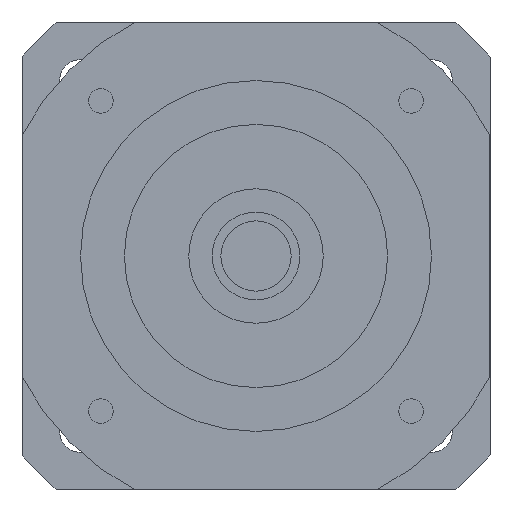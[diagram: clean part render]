
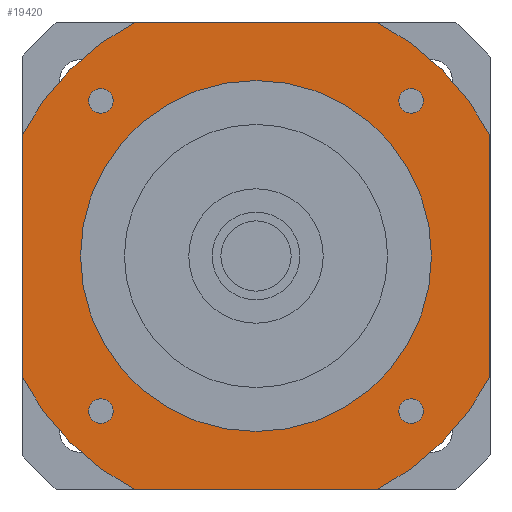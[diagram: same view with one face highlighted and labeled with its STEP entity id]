
A CAD part, left-side view. The second image highlights one B-rep face of the part: STEP entity #19420.
In plain terms, the highlighted planar face has unit normal (-1, 0, 0) as drawn and (0, 0, -1) by its records, which use the part's own axes.
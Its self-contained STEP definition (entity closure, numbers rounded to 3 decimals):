
#14250=CARTESIAN_POINT('',(-40.,-20.616,-42.));
#14260=VERTEX_POINT('',#14250);
#14440=CARTESIAN_POINT('',(-20.616,-40.,-42.));
#14450=VERTEX_POINT('',#14440);
#14480=CARTESIAN_POINT('',(0.,0.,
-42.));
#14490=DIRECTION('',(0.,0.,1.));
#14500=DIRECTION('',(-1.,0.,0.));
#14510=AXIS2_PLACEMENT_3D('',#14480,#14490,#14500);
#14520=CIRCLE('',#14510,45.);
#14530=EDGE_CURVE('',#14260,#14450,#14520,.T.);
#17860=CARTESIAN_POINT('',(40.,40.,-42.));
#17870=DIRECTION('',(0.,0.,1.));
#17880=DIRECTION('',(-1.,0.,0.));
#17890=AXIS2_PLACEMENT_3D('',#17860,#17870,#17880);
#17900=PLANE('',#17890);
#17910=CARTESIAN_POINT('',(-26.517,26.517,-42.));
#17920=DIRECTION('',(0.,0.,-1.));
#17930=DIRECTION('',(0.,-1.,0.));
#17940=AXIS2_PLACEMENT_3D('',#17910,#17920,#17930);
#17950=CIRCLE('',#17940,2.1);
#17960=CARTESIAN_POINT('',(-26.517,24.417,-42.));
#17970=VERTEX_POINT('',#17960);
#17980=CARTESIAN_POINT('',(-28.617,26.517,-42.));
#17990=VERTEX_POINT('',#17980);
#18000=EDGE_CURVE('',#17970,#17990,#17950,.T.);
#18010=ORIENTED_EDGE('',*,*,#18000,.F.);
#18020=CARTESIAN_POINT('',(-24.417,26.517,-42.));
#18030=VERTEX_POINT('',#18020);
#18040=EDGE_CURVE('',#17990,#18030,#17950,.T.);
#18050=ORIENTED_EDGE('',*,*,#18040,.F.);
#18060=EDGE_CURVE('',#18030,#17970,#17950,.T.);
#18070=ORIENTED_EDGE('',*,*,#18060,.F.);
#18080=EDGE_LOOP('',(#18070,#18050,#18010));
#18090=FACE_BOUND('',#18080,.T.);
#18100=CARTESIAN_POINT('',(26.517,26.517,-42.));
#18110=DIRECTION('',(0.,0.,-1.));
#18120=DIRECTION('',(0.,-1.,0.));
#18130=AXIS2_PLACEMENT_3D('',#18100,#18110,#18120);
#18140=CIRCLE('',#18130,2.1);
#18150=CARTESIAN_POINT('',(26.517,24.417,-42.));
#18160=VERTEX_POINT('',#18150);
#18170=CARTESIAN_POINT('',(24.417,26.517,-42.));
#18180=VERTEX_POINT('',#18170);
#18190=EDGE_CURVE('',#18160,#18180,#18140,.T.);
#18200=ORIENTED_EDGE('',*,*,#18190,.F.);
#18210=CARTESIAN_POINT('',(28.617,26.517,-42.));
#18220=VERTEX_POINT('',#18210);
#18230=EDGE_CURVE('',#18180,#18220,#18140,.T.);
#18240=ORIENTED_EDGE('',*,*,#18230,.F.);
#18250=EDGE_CURVE('',#18220,#18160,#18140,.T.);
#18260=ORIENTED_EDGE('',*,*,#18250,.F.);
#18270=EDGE_LOOP('',(#18260,#18240,#18200));
#18280=FACE_BOUND('',#18270,.T.);
#18290=CARTESIAN_POINT('',(26.517,-26.517,-42.));
#18300=DIRECTION('',(0.,0.,-1.));
#18310=DIRECTION('',(0.,-1.,0.));
#18320=AXIS2_PLACEMENT_3D('',#18290,#18300,#18310);
#18330=CIRCLE('',#18320,2.1);
#18340=CARTESIAN_POINT('',(26.517,-28.617,-42.));
#18350=VERTEX_POINT('',#18340);
#18360=CARTESIAN_POINT('',(24.417,-26.517,-42.));
#18370=VERTEX_POINT('',#18360);
#18380=EDGE_CURVE('',#18350,#18370,#18330,.T.);
#18390=ORIENTED_EDGE('',*,*,#18380,.F.);
#18400=CARTESIAN_POINT('',(28.617,-26.517,-42.));
#18410=VERTEX_POINT('',#18400);
#18420=EDGE_CURVE('',#18370,#18410,#18330,.T.);
#18430=ORIENTED_EDGE('',*,*,#18420,.F.);
#18440=EDGE_CURVE('',#18410,#18350,#18330,.T.);
#18450=ORIENTED_EDGE('',*,*,#18440,.F.);
#18460=EDGE_LOOP('',(#18450,#18430,#18390));
#18470=FACE_BOUND('',#18460,.T.);
#18480=CARTESIAN_POINT('',(0.,0.,
-42.));
#18490=DIRECTION('',(0.,0.,1.));
#18500=DIRECTION('',(1.,0.,0.));
#18510=AXIS2_PLACEMENT_3D('',#18480,#18490,#18500);
#18520=CIRCLE('',#18510,30.);
#18530=CARTESIAN_POINT('',(30.,0.,-42.));
#18540=VERTEX_POINT('',#18530);
#18550=CARTESIAN_POINT('',(-30.,0.,-42.));
#18560=VERTEX_POINT('',#18550);
#18570=EDGE_CURVE('',#18540,#18560,#18520,.T.);
#18580=ORIENTED_EDGE('',*,*,#18570,.T.);
#18590=EDGE_CURVE('',#18560,#18540,#18520,.T.);
#18600=ORIENTED_EDGE('',*,*,#18590,.T.);
#18610=EDGE_LOOP('',(#18600,#18580));
#18620=FACE_BOUND('',#18610,.T.);
#18630=CARTESIAN_POINT('',(-26.517,-26.517,-42.));
#18640=DIRECTION('',(0.,0.,-1.));
#18650=DIRECTION('',(0.,-1.,0.));
#18660=AXIS2_PLACEMENT_3D('',#18630,#18640,#18650);
#18670=CIRCLE('',#18660,2.1);
#18680=CARTESIAN_POINT('',(-26.517,-28.617,-42.));
#18690=VERTEX_POINT('',#18680);
#18700=CARTESIAN_POINT('',(-28.617,-26.517,-42.));
#18710=VERTEX_POINT('',#18700);
#18720=EDGE_CURVE('',#18690,#18710,#18670,.T.);
#18730=ORIENTED_EDGE('',*,*,#18720,.F.);
#18740=CARTESIAN_POINT('',(-24.417,-26.517,-42.));
#18750=VERTEX_POINT('',#18740);
#18760=EDGE_CURVE('',#18710,#18750,#18670,.T.);
#18770=ORIENTED_EDGE('',*,*,#18760,.F.);
#18780=EDGE_CURVE('',#18750,#18690,#18670,.T.);
#18790=ORIENTED_EDGE('',*,*,#18780,.F.);
#18800=EDGE_LOOP('',(#18790,#18770,#18730));
#18810=FACE_BOUND('',#18800,.T.);
#18820=ORIENTED_EDGE('',*,*,#14530,.F.);
#18830=CARTESIAN_POINT('',(-40.,-40.,-42.));
#18840=DIRECTION('',(1.,0.,0.));
#18850=VECTOR('',#18840,1000.);
#18860=LINE('',#18830,#18850);
#18870=CARTESIAN_POINT('',(20.616,-40.,-42.));
#18880=VERTEX_POINT('',#18870);
#18890=EDGE_CURVE('',#14450,#18880,#18860,.T.);
#18900=ORIENTED_EDGE('',*,*,#18890,.F.);
#18910=CARTESIAN_POINT('',(0.,0.,
-42.));
#18920=DIRECTION('',(0.,0.,1.));
#18930=DIRECTION('',(-1.,0.,0.));
#18940=AXIS2_PLACEMENT_3D('',#18910,#18920,#18930);
#18950=CIRCLE('',#18940,45.);
#18960=CARTESIAN_POINT('',(40.,-20.616,-42.));
#18970=VERTEX_POINT('',#18960);
#18980=EDGE_CURVE('',#18880,#18970,#18950,.T.);
#18990=ORIENTED_EDGE('',*,*,#18980,.F.);
#19000=CARTESIAN_POINT('',(40.,-40.,-42.));
#19010=DIRECTION('',(0.,1.,0.));
#19020=VECTOR('',#19010,1000.);
#19030=LINE('',#19000,#19020);
#19040=CARTESIAN_POINT('',(40.,20.616,-42.));
#19050=VERTEX_POINT('',#19040);
#19060=EDGE_CURVE('',#18970,#19050,#19030,.T.);
#19070=ORIENTED_EDGE('',*,*,#19060,.F.);
#19080=CARTESIAN_POINT('',(0.,0.,
-42.));
#19090=DIRECTION('',(0.,0.,1.));
#19100=DIRECTION('',(-1.,0.,0.));
#19110=AXIS2_PLACEMENT_3D('',#19080,#19090,#19100);
#19120=CIRCLE('',#19110,45.);
#19130=CARTESIAN_POINT('',(20.616,40.,-42.));
#19140=VERTEX_POINT('',#19130);
#19150=EDGE_CURVE('',#19050,#19140,#19120,.T.);
#19160=ORIENTED_EDGE('',*,*,#19150,.F.);
#19170=CARTESIAN_POINT('',(40.,40.,-42.));
#19180=DIRECTION('',(-1.,0.,0.));
#19190=VECTOR('',#19180,1000.);
#19200=LINE('',#19170,#19190);
#19210=CARTESIAN_POINT('',(-20.616,40.,-42.));
#19220=VERTEX_POINT('',#19210);
#19230=EDGE_CURVE('',#19140,#19220,#19200,.T.);
#19240=ORIENTED_EDGE('',*,*,#19230,.F.);
#19250=CARTESIAN_POINT('',(0.,0.,
-42.));
#19260=DIRECTION('',(0.,0.,1.));
#19270=DIRECTION('',(-1.,0.,0.));
#19280=AXIS2_PLACEMENT_3D('',#19250,#19260,#19270);
#19290=CIRCLE('',#19280,45.);
#19300=CARTESIAN_POINT('',(-40.,20.616,-42.));
#19310=VERTEX_POINT('',#19300);
#19320=EDGE_CURVE('',#19220,#19310,#19290,.T.);
#19330=ORIENTED_EDGE('',*,*,#19320,.F.);
#19340=CARTESIAN_POINT('',(-40.,40.,-42.));
#19350=DIRECTION('',(0.,-1.,0.));
#19360=VECTOR('',#19350,1000.);
#19370=LINE('',#19340,#19360);
#19380=EDGE_CURVE('',#19310,#14260,#19370,.T.);
#19390=ORIENTED_EDGE('',*,*,#19380,.F.);
#19400=EDGE_LOOP('',(#19390,#19330,#19240,#19160,#19070,#18990,#18900,
#18820));
#19410=FACE_OUTER_BOUND('',#19400,.T.);
#19420=ADVANCED_FACE('',(#18090,#18280,#18470,#18620,#18810,#19410),
#17900,.F.);
